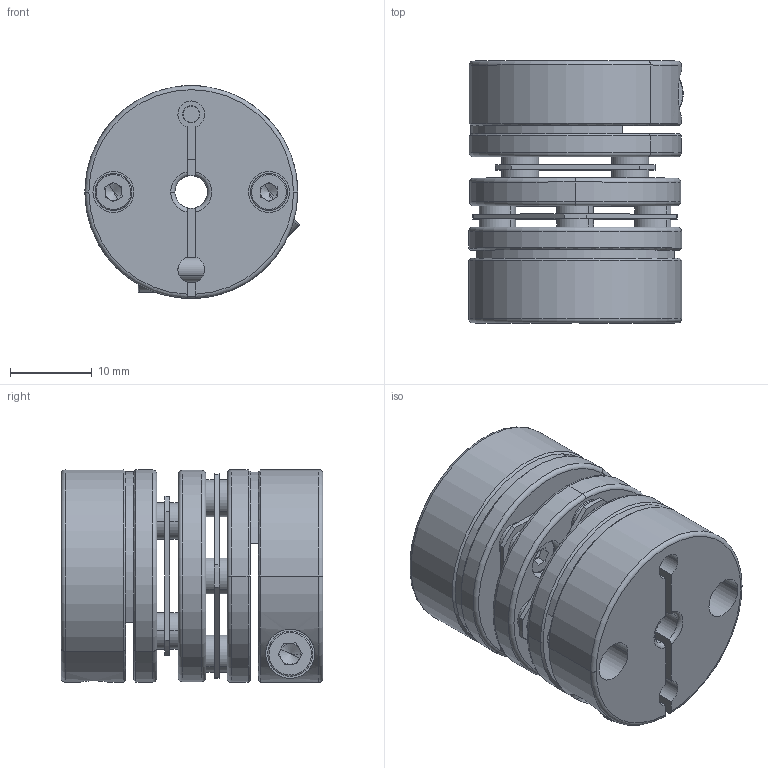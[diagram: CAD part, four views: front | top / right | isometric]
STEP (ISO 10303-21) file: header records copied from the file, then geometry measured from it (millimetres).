
FILE_DESCRIPTION (( 'STEP AP203' ), '1' );
FILE_NAME ('DXC-26X32-4-4.STEP', '2024-03-16T06:47:21', ( '' ), ( '' ), 'SwSTEP 2.0', 'SolidWorks 2020', '' );
FILE_SCHEMA (( 'CONFIG_CONTROL_DESIGN' ));
Length unit declared in the file: millimetre
Products named in the file (6): 26臚え郪; socket head cap screw_iso_ISO 4762 M3 x 10 - 10C; socket head cap screw_iso_ISO 4762 M2.5 x 5 - 5C; 26膜片型中间件（3.4厚）; DXC-26X32-4-4; 26臚え薊粣ん傷裔-4
Assembly tree (15 placements, depth 2):
  DXC-26X32-4-4
    26膜片型中间件（3.4厚）
    26臚え郪  x2
    socket head cap screw_iso_ISO 4762 M2.5 x 5 - 5C  x8
    socket head cap screw_iso_ISO 4762 M3 x 10 - 10C  x2
    26臚え薊粣ん傷裔-4  x2
Bounding box: 26.19 x 32 x 26 mm (x, y, z)
Volume: 11855.8 mm3; surface area: 10939.1 mm2
Topology: 15 solids, 15 shells, 528 faces, 1230 edges, 748 vertices
Faces by surface type: plane 210, cylinder 196, torus 64, cone 58
Entity records: 7057 total; most frequent: CARTESIAN_POINT 1228, DIRECTION 1145, ORIENTED_EDGE 950, EDGE_CURVE 475, AXIS2_PLACEMENT_3D 472, VERTEX_POINT 299, EDGE_LOOP 256, CIRCLE 256
